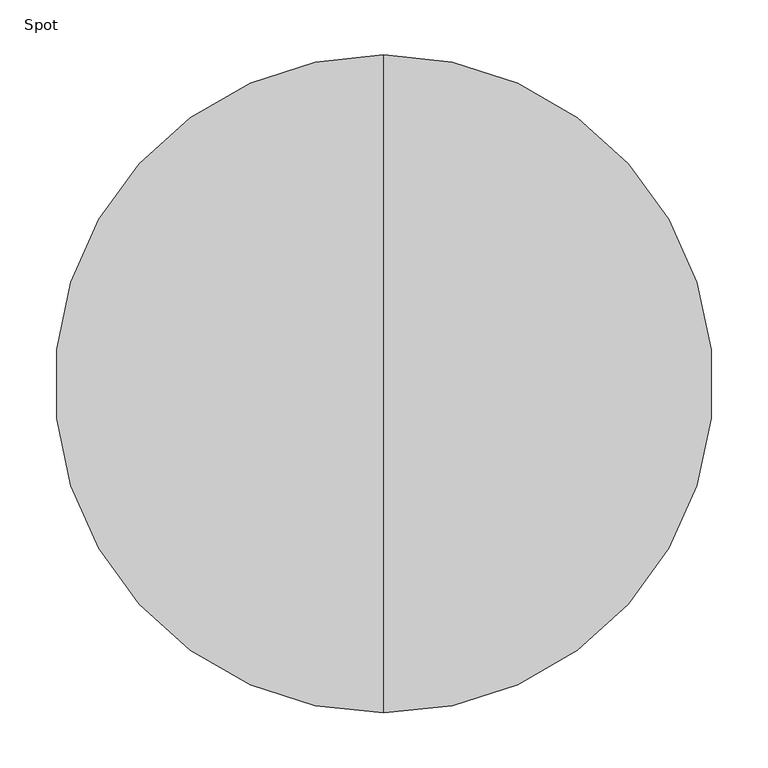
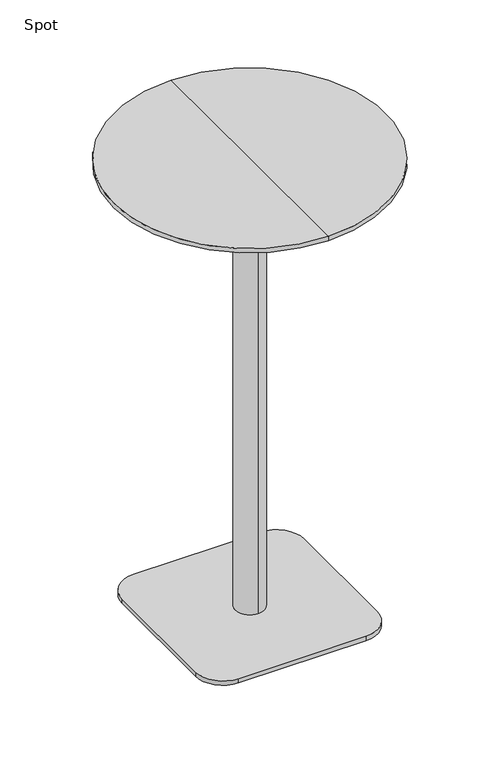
"""IFC4 building model written with IfcOpenShell, lengths in millimetres: furniture geometry, Spot : Bø60x105s."""

from ifc_helpers import new_model, si_unit, point, frame, frame_2d, origin, origin_with_axes, place, context, project, spatial, polyline, circle_curve, trimmed, segment, composite_curve, outline, extrude, source, transform, mapped, element, save
from ifc_brep_helpers import plane_surface, cylinder_surface, revolved_surface, advanced_brep


def spot_d83fc2bb(model_context):
    return source(origin(), model_context, "Body", "SolidModel", [
        advanced_brep(
        [(0.0, -300.0, 1050.0), (0.0, 300.0, 1050.0), (0.0, 0.0, 1050.0), (0.0, 300.0, 1040.25), (0.0, -300.0, 1040.25), (0.0, 0.0, 1028.0), (0.0, -254.2823776, 1028.0), (0.0, 254.2823776, 1028.0)],
        [
            (0, 1, circle_curve(frame((0.0, 0.0, 1050.0), z_axis=(0.0, 0.0, 1.0), x_axis=(0.0, -1.0, 0.0)), 300.0)),
            (1, 2),
            (2, 0),
            (3, 4, circle_curve(frame((0.0, 0.0, 1040.25), z_axis=(0.0, 0.0, 1.0), x_axis=(0.0, -1.0, 0.0)), 300.0)),
            (4, 0),
            (0, 1, circle_curve(frame((0.0, 0.0, 1050.0), z_axis=(0.0, 0.0, -1.0), x_axis=(0.0, -1.0, 0.0)), 300.0)),
            (1, 3),
            (5, 6),
            (6, 7, circle_curve(frame((0.0, 0.0, 1028.0), z_axis=(0.0, 0.0, -1.0), x_axis=(0.0, -1.0, 0.0)), 254.2823776)),
            (7, 5),
            (7, 6, circle_curve(frame((0.0, 0.0, 1028.0), z_axis=(0.0, 0.0, -1.0), x_axis=(0.0, -1.0, 0.0)), 254.2823776)),
            (4, 3, circle_curve(frame((0.0, 0.0, 1040.25), z_axis=(0.0, 0.0, 1.0), x_axis=(0.0, -1.0, 0.0)), 300.0)),
            (6, 4),
            (3, 7),
        ],
        [
            plane_surface(frame((0.0, 0.0, 1050.0), z_axis=(0.0, 0.0, 1.0), x_axis=(0.0, -1.0, 0.0))),
            cylinder_surface(frame((0.0, 0.0, 1130.0), z_axis=(0.0, 0.0, -1.0), x_axis=(0.0, -1.0, 0.0)), 300.0),
            plane_surface(frame((0.0, 0.0, 1028.0), z_axis=(0.0, 0.0, -1.0), x_axis=(0.0, -1.0, 0.0))),
            revolved_surface(polyline([(0.0, -300.0, 1040.25), (0.0, -254.2823776, 1028.0)]), (0.0, 0.0, 1130.0), (0.0, 0.0, -1.0)),
        ],
        [
            (0, [[1, 2, 3]]),
            (1, [[4, 5, 6, 7]]),
            (2, [[8, 9, 10]]),
            (2, [[-10, 11, -8]]),
            (0, [[-6, -3, -2]]),
            (1, [[12, -7, -1, -5]]),
            (3, [[-9, 13, -4, 14]]),
            (3, [[-11, -14, -12, -13]]),
        ],
    ),
        extrude(outline(composite_curve([segment(trimmed(circle_curve(frame_2d((140.0, 140.0)), 60.0), [point((140.0, 200.0))], [point((200.0, 140.0))], False, "CARTESIAN"), True, "CONTINUOUS"), segment(polyline([(200.0, 140.0), (200.0, -140.0)]), True, "CONTINUOUS"), segment(trimmed(circle_curve(frame_2d((140.0, -140.0)), 60.0), [point((200.0, -140.0))], [point((140.0, -200.0))], False, "CARTESIAN"), True, "CONTINUOUS"), segment(polyline([(140.0, -200.0), (-140.0, -200.0)]), True, "CONTINUOUS"), segment(trimmed(circle_curve(frame_2d((-140.0, -140.0)), 60.0), [point((-140.0, -200.0))], [point((-200.0, -140.0))], False, "CARTESIAN"), True, "CONTINUOUS"), segment(polyline([(-200.0, -140.0), (-200.0, 140.0)]), True, "CONTINUOUS"), segment(trimmed(circle_curve(frame_2d((-140.0, 140.0)), 60.0), [point((-200.0, 140.0))], [point((-140.0, 200.0))], False, "CARTESIAN"), True, "CONTINUOUS"), segment(polyline([(-140.0, 200.0), (140.0, 200.0)]), True, "CONTINUOUS")], self_intersect=False)), origin_with_axes(), (0.0, 0.0, 1.0), 10.0),
        advanced_brep(
        [(0.0, 32.0, 10.0), (0.0, -32.0, 10.0), (0.0, -32.0, 997.406916), (0.0, 32.0, 997.406916), (0.0, 0.0, 10.0), (0.0, 150.0, 1028.0), (0.0, -150.0, 1028.0), (0.0, 0.0, 1028.0), (0.0, 150.0, 1016.7213673), (0.0, -150.0, 1016.7213673)],
        [
            (0, 1, circle_curve(frame((0.0, 0.0, 10.0), z_axis=(0.0, 0.0, 1.0), x_axis=(0.0, -1.0, 0.0)), 32.0)),
            (1, 2),
            (2, 3, circle_curve(frame((0.0, 0.0, 997.406916), z_axis=(0.0, 0.0, -1.0), x_axis=(0.0, -1.0, 0.0)), 32.0)),
            (3, 0),
            (1, 0, circle_curve(frame((0.0, 0.0, 10.0), z_axis=(0.0, 0.0, 1.0), x_axis=(0.0, -1.0, 0.0)), 32.0)),
            (3, 2, circle_curve(frame((0.0, 0.0, 997.406916), z_axis=(0.0, 0.0, -1.0), x_axis=(0.0, -1.0, 0.0)), 32.0)),
            (4, 1),
            (0, 4),
            (5, 6, circle_curve(frame((0.0, 0.0, 1028.0), z_axis=(0.0, 0.0, 1.0), x_axis=(0.0, -1.0, 0.0)), 150.0)),
            (6, 7),
            (7, 5),
            (6, 5, circle_curve(frame((0.0, 0.0, 1028.0), z_axis=(0.0, 0.0, 1.0), x_axis=(0.0, -1.0, 0.0)), 150.0)),
            (8, 9, circle_curve(frame((0.0, 0.0, 1016.7213673), z_axis=(0.0, 0.0, 1.0), x_axis=(0.0, -1.0, 0.0)), 150.0)),
            (9, 6),
            (5, 8),
            (9, 8, circle_curve(frame((0.0, 0.0, 1016.7213673), z_axis=(0.0, 0.0, 1.0), x_axis=(0.0, -1.0, 0.0)), 150.0)),
            (2, 9),
            (8, 3),
        ],
        [
            cylinder_surface(frame((0.0, 0.0, 1390.0), z_axis=(0.0, 0.0, -1.0), x_axis=(0.0, -1.0, 0.0)), 32.0),
            plane_surface(frame((0.0, 0.0, 10.0), z_axis=(0.0, 0.0, -1.0), x_axis=(0.0, -1.0, 0.0))),
            plane_surface(frame((0.0, 0.0, 1028.0), z_axis=(0.0, 0.0, 1.0), x_axis=(0.0, -1.0, 0.0))),
            cylinder_surface(frame((0.0, 0.0, 1390.0), z_axis=(0.0, 0.0, -1.0), x_axis=(0.0, -1.0, 0.0)), 150.0),
            revolved_surface(polyline([(0.0, -150.0, 1016.7213673), (0.0, -32.0, 997.406916)]), (0.0, 0.0, 1390.0), (0.0, 0.0, -1.0)),
        ],
        [
            (0, [[1, 2, 3, 4]]),
            (0, [[5, -4, 6, -2]]),
            (1, [[7, -1, 8]]),
            (1, [[-8, -5, -7]]),
            (2, [[9, 10, 11]]),
            (2, [[12, -11, -10]]),
            (3, [[13, 14, -9, 15]]),
            (3, [[16, -15, -12, -14]]),
            (4, [[-3, 17, -13, 18]]),
            (4, [[-6, -18, -16, -17]]),
        ],
    ),
        extrude(outline(polyline([(0.0, 0.0), (-20.0, 0.0), (-20.0, 20.0), (0.0, 20.0), (0.0, 0.0)])), origin_with_axes(), (0.0, 0.0, 1.0), 10.0),
    ])


if __name__ == "__main__":
    model = new_model("IFC4")
    model_context = context("Model", 3, world=origin())
    ifc_project = project(units=[si_unit("LENGTHUNIT", "METRE", prefix="MILLI")], contexts=[model_context])
    site = spatial("IfcSite", under=ifc_project)
    building = spatial("IfcBuilding", under=site)
    placement = place(None, origin())
    spot_shape = spot_d83fc2bb(model_context)
    element("IfcFurniture", 1, ObjectType="Spot : Bø60x105s", at=placement, inside=building, context=model_context, shape_type="MappedRepresentation", body=[
        mapped(spot_shape, transform((0.0, 0.0, 0.0), x_axis=(1.0, 0.0, 0.0), y_axis=(0.0, 1.0, 0.0), z_axis=(0.0, 0.0, 1.0))),
    ])
    save(model, "model.ifc")
